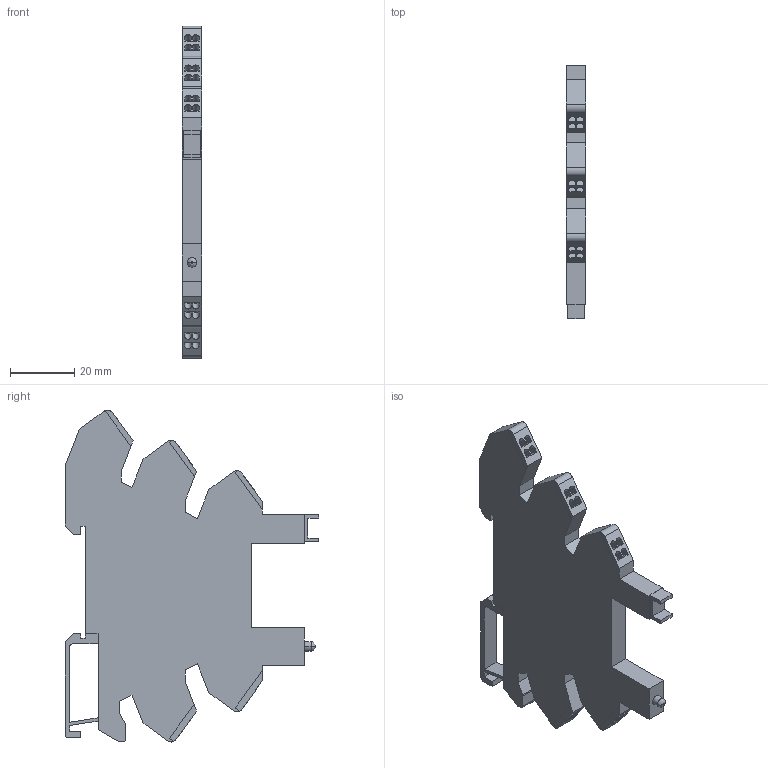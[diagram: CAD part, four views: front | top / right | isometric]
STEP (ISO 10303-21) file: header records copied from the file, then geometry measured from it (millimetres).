
FILE_DESCRIPTION(('starvars output'),'2;1');
FILE_NAME('cv20200403080410000017821.stp','08:04:10 2020/04/03',( 'Thomas Industrial Network Germany GmbH'),( 'Thomas Industrial Network Germany GmbH'),'unknown preprocess','ACIS' ,'unknown authorization');
FILE_SCHEMA(('AUTOMOTIVE_DESIGN_CC2 {UNKNOWN IMPLEMENTATION LEVEL}'));
Length unit declared in the file: millimetre
Products named in the file (1): PRODUCT_ID_1
Bounding box: 6.2 x 78.7 x 103.01 mm (x, y, z)
Volume: 28446.9 mm3; surface area: 13183.5 mm2
Topology: 1 solids, 1 shells, 220 faces, 592 edges, 394 vertices
Faces by surface type: plane 186, cylinder 32, bspline 2
Entity records: 8673 total; most frequent: CARTESIAN_POINT 1257, ORIENTED_EDGE 1184, DIRECTION 1091, EDGE_CURVE 592, VECTOR 509, LINE 509, VERTEX_POINT 394, AXIS2_PLACEMENT_3D 291
